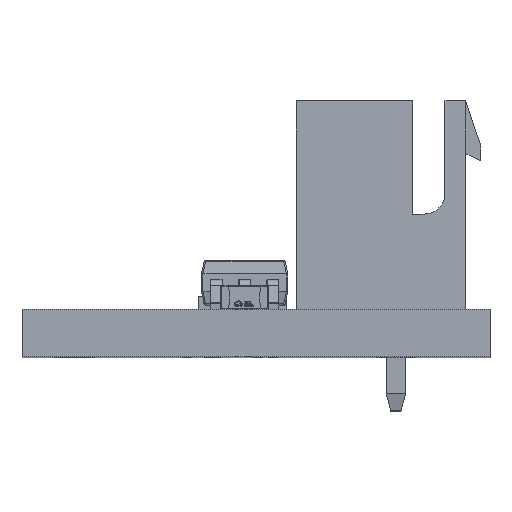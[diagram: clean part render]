
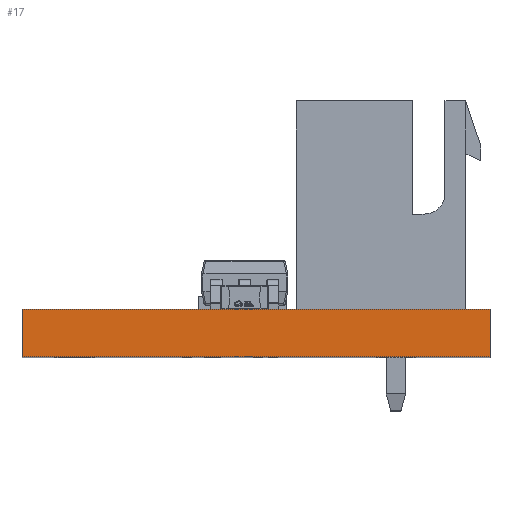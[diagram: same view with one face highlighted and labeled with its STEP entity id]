
A CAD part, top view. The second image highlights one B-rep face of the part: STEP entity #17.
In plain terms, the highlighted planar face has unit normal (0, 0, 1).
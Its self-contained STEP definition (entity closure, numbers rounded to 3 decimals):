
#17 = ADVANCED_FACE('',(#18),#32,.T.);
#18 = FACE_BOUND('',#19,.T.);
#19 = EDGE_LOOP('',(#20,#55,#83,#111));
#20 = ORIENTED_EDGE('',*,*,#21,.T.);
#21 = EDGE_CURVE('',#22,#24,#26,.T.);
#22 = VERTEX_POINT('',#23);
#23 = CARTESIAN_POINT('',(7.861,0.,9.004));
#24 = VERTEX_POINT('',#25);
#25 = CARTESIAN_POINT('',(7.861,1.6,9.004)
  );
#26 = SURFACE_CURVE('',#27,(#31,#43),.PCURVE_S1.);
#27 = LINE('',#28,#29);
#28 = CARTESIAN_POINT('',(7.861,0.,9.004));
#29 = VECTOR('',#30,1.);
#30 = DIRECTION('',(0.,1.,0.));
#31 = PCURVE('',#32,#37);
#32 = PLANE('',#33);
#33 = AXIS2_PLACEMENT_3D('',#34,#35,#36);
#34 = CARTESIAN_POINT('',(7.861,0.,9.004));
#35 = DIRECTION('',(0.,0.,1.));
#36 = DIRECTION('',(-1.,0.,0.));
#37 = DEFINITIONAL_REPRESENTATION('',(#38),#42);
#38 = LINE('',#39,#40);
#39 = CARTESIAN_POINT('',(0.,0.));
#40 = VECTOR('',#41,1.);
#41 = DIRECTION('',(0.,-1.));
#42 = ( GEOMETRIC_REPRESENTATION_CONTEXT(2) 
PARAMETRIC_REPRESENTATION_CONTEXT() REPRESENTATION_CONTEXT('2D SPACE',''
  ) );
#43 = PCURVE('',#44,#49);
#44 = PLANE('',#45);
#45 = AXIS2_PLACEMENT_3D('',#46,#47,#48);
#46 = CARTESIAN_POINT('',(7.861,0.,-9.004));
#47 = DIRECTION('',(1.,0.,0.));
#48 = DIRECTION('',(0.,0.,1.));
#49 = DEFINITIONAL_REPRESENTATION('',(#50),#54);
#50 = LINE('',#51,#52);
#51 = CARTESIAN_POINT('',(18.009,0.));
#52 = VECTOR('',#53,1.);
#53 = DIRECTION('',(0.,-1.));
#54 = ( GEOMETRIC_REPRESENTATION_CONTEXT(2) 
PARAMETRIC_REPRESENTATION_CONTEXT() REPRESENTATION_CONTEXT('2D SPACE',''
  ) );
#55 = ORIENTED_EDGE('',*,*,#56,.T.);
#56 = EDGE_CURVE('',#24,#57,#59,.T.);
#57 = VERTEX_POINT('',#58);
#58 = CARTESIAN_POINT('',(-7.861,1.6,9.004)
  );
#59 = SURFACE_CURVE('',#60,(#64,#71),.PCURVE_S1.);
#60 = LINE('',#61,#62);
#61 = CARTESIAN_POINT('',(7.861,1.6,9.004)
  );
#62 = VECTOR('',#63,1.);
#63 = DIRECTION('',(-1.,0.,0.));
#64 = PCURVE('',#32,#65);
#65 = DEFINITIONAL_REPRESENTATION('',(#66),#70);
#66 = LINE('',#67,#68);
#67 = CARTESIAN_POINT('',(0.,-1.6));
#68 = VECTOR('',#69,1.);
#69 = DIRECTION('',(1.,0.));
#70 = ( GEOMETRIC_REPRESENTATION_CONTEXT(2) 
PARAMETRIC_REPRESENTATION_CONTEXT() REPRESENTATION_CONTEXT('2D SPACE',''
  ) );
#71 = PCURVE('',#72,#77);
#72 = PLANE('',#73);
#73 = AXIS2_PLACEMENT_3D('',#74,#75,#76);
#74 = CARTESIAN_POINT('',(0.,1.6,
    0.));
#75 = DIRECTION('',(0.,-1.,0.));
#76 = DIRECTION('',(1.,0.,0.));
#77 = DEFINITIONAL_REPRESENTATION('',(#78),#82);
#78 = LINE('',#79,#80);
#79 = CARTESIAN_POINT('',(7.861,9.004));
#80 = VECTOR('',#81,1.);
#81 = DIRECTION('',(-1.,0.));
#82 = ( GEOMETRIC_REPRESENTATION_CONTEXT(2) 
PARAMETRIC_REPRESENTATION_CONTEXT() REPRESENTATION_CONTEXT('2D SPACE',''
  ) );
#83 = ORIENTED_EDGE('',*,*,#84,.F.);
#84 = EDGE_CURVE('',#85,#57,#87,.T.);
#85 = VERTEX_POINT('',#86);
#86 = CARTESIAN_POINT('',(-7.861,0.,9.004));
#87 = SURFACE_CURVE('',#88,(#92,#99),.PCURVE_S1.);
#88 = LINE('',#89,#90);
#89 = CARTESIAN_POINT('',(-7.861,0.,9.004));
#90 = VECTOR('',#91,1.);
#91 = DIRECTION('',(0.,1.,0.));
#92 = PCURVE('',#32,#93);
#93 = DEFINITIONAL_REPRESENTATION('',(#94),#98);
#94 = LINE('',#95,#96);
#95 = CARTESIAN_POINT('',(15.723,0.));
#96 = VECTOR('',#97,1.);
#97 = DIRECTION('',(0.,-1.));
#98 = ( GEOMETRIC_REPRESENTATION_CONTEXT(2) 
PARAMETRIC_REPRESENTATION_CONTEXT() REPRESENTATION_CONTEXT('2D SPACE',''
  ) );
#99 = PCURVE('',#100,#105);
#100 = PLANE('',#101);
#101 = AXIS2_PLACEMENT_3D('',#102,#103,#104);
#102 = CARTESIAN_POINT('',(-7.861,0.,9.004));
#103 = DIRECTION('',(-1.,0.,0.));
#104 = DIRECTION('',(0.,0.,-1.));
#105 = DEFINITIONAL_REPRESENTATION('',(#106),#110);
#106 = LINE('',#107,#108);
#107 = CARTESIAN_POINT('',(0.,-0.));
#108 = VECTOR('',#109,1.);
#109 = DIRECTION('',(0.,-1.));
#110 = ( GEOMETRIC_REPRESENTATION_CONTEXT(2) 
PARAMETRIC_REPRESENTATION_CONTEXT() REPRESENTATION_CONTEXT('2D SPACE',''
  ) );
#111 = ORIENTED_EDGE('',*,*,#112,.F.);
#112 = EDGE_CURVE('',#22,#85,#113,.T.);
#113 = SURFACE_CURVE('',#114,(#118,#125),.PCURVE_S1.);
#114 = LINE('',#115,#116);
#115 = CARTESIAN_POINT('',(7.861,0.,9.004));
#116 = VECTOR('',#117,1.);
#117 = DIRECTION('',(-1.,0.,0.));
#118 = PCURVE('',#32,#119);
#119 = DEFINITIONAL_REPRESENTATION('',(#120),#124);
#120 = LINE('',#121,#122);
#121 = CARTESIAN_POINT('',(0.,0.));
#122 = VECTOR('',#123,1.);
#123 = DIRECTION('',(1.,0.));
#124 = ( GEOMETRIC_REPRESENTATION_CONTEXT(2) 
PARAMETRIC_REPRESENTATION_CONTEXT() REPRESENTATION_CONTEXT('2D SPACE',''
  ) );
#125 = PCURVE('',#126,#131);
#126 = PLANE('',#127);
#127 = AXIS2_PLACEMENT_3D('',#128,#129,#130);
#128 = CARTESIAN_POINT('',(0.,0.,0.));
#129 = DIRECTION('',(0.,-1.,0.));
#130 = DIRECTION('',(1.,0.,0.));
#131 = DEFINITIONAL_REPRESENTATION('',(#132),#136);
#132 = LINE('',#133,#134);
#133 = CARTESIAN_POINT('',(7.861,9.004));
#134 = VECTOR('',#135,1.);
#135 = DIRECTION('',(-1.,0.));
#136 = ( GEOMETRIC_REPRESENTATION_CONTEXT(2) 
PARAMETRIC_REPRESENTATION_CONTEXT() REPRESENTATION_CONTEXT('2D SPACE',''
  ) );
